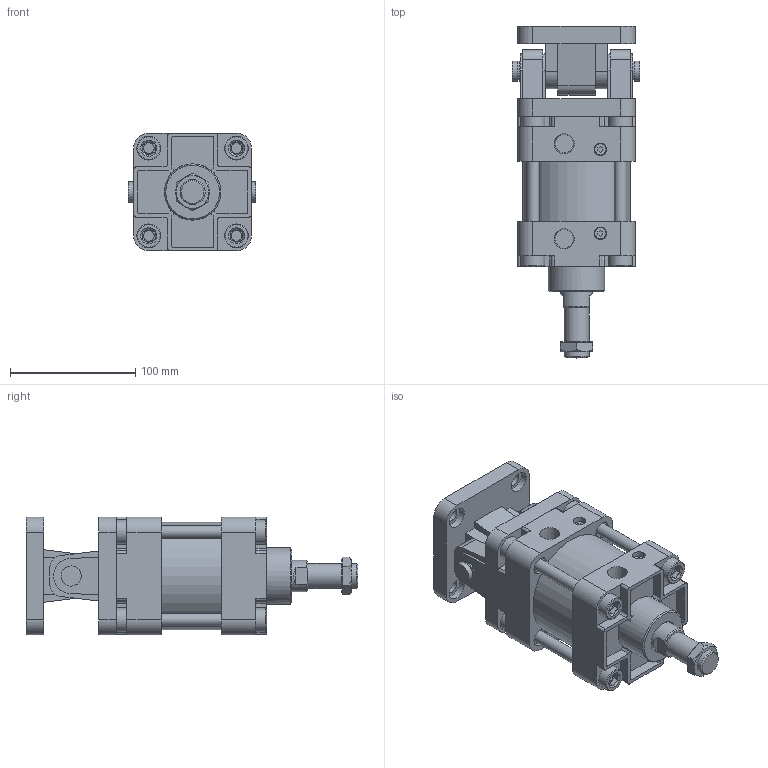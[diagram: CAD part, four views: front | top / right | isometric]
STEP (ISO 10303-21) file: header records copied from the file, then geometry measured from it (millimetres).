
FILE_DESCRIPTION(/* description */ ('Unknown'),/* implementation_level */ '2;1');
FILE_NAME(/* name */ 'WA80-0-CD',/* time_stamp */ '2026-07-17T16:55:36+08:00',/* author */ ('Unknown'),/* organization */ ('Unknown'),/* preprocessor_version */ 'ST-DEVELOPER v16.7',/* originating_system */ 'DEX',/* authorisation */ $);
FILE_SCHEMA (('CONFIG_CONTROL_DESIGN'));
Length unit declared in the file: millimetre
Products named in the file (10): WA80-0-CD; WA80_前; WA80_後; WA80_鋁; WA80_､ﾟｶbｬ｡+; WA80_CA; M20-1.5P-8_螺; WA80_CBP; WA80_T碪墮姊濈祫; WA80_CB
Assembly tree (12 placements, depth 2):
  WA80-0-CD
    WA80_前
    WA80_後
    WA80_鋁
    WA80_､ﾟｶbｬ｡+
    WA80_CA
    M20-1.5P-8_螺
    WA80_CBP
    WA80_T碪墮姊濈祫  x4
    WA80_CB
Bounding box: 102 x 265 x 94 mm (x, y, z)
Volume: 1214461.1 mm3; surface area: 242161.8 mm2
Topology: 12 solids, 12 shells, 472 faces, 1150 edges, 766 vertices
Faces by surface type: plane 278, cylinder 163, cone 23, torus 8
Full cylindrical faces by diameter (mm): 8.5 x8, 9 x2, 10 x6, 11 x8, 14 x12, 14.2 x4, 14.8 x2, 16 x6, 17 x8, 18.376 x1, 19 x8, 20 x1, 25 x2, 26 x1, 45 x1, 79.5 x1, 80 x3, 86 x1
Entity records: 12928 total; most frequent: CARTESIAN_POINT 1968, DIRECTION 1920, ORIENTED_EDGE 1712, EDGE_CURVE 856, AXIS2_PLACEMENT_3D 706, VERTEX_POINT 606, EDGE_LOOP 522, FACE_BOUND 522
